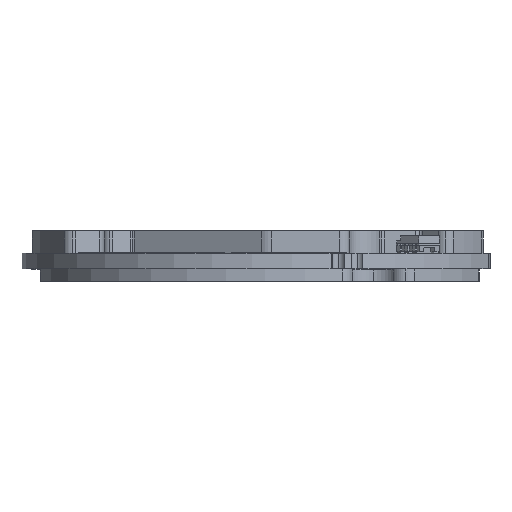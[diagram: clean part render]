
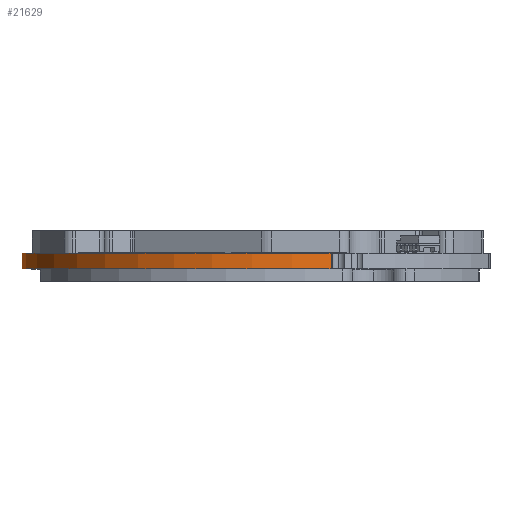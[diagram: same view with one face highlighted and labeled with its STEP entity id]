
A CAD part, left-side view. The second image highlights one B-rep face of the part: STEP entity #21629.
In plain terms, the highlighted cylindrical face has radius 25 mm (diameter 50 mm), a partial arc.
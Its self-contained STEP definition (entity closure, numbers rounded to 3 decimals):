
#232 = CIRCLE ( 'NONE', #5959, 25. ) ;
#1007 = FACE_OUTER_BOUND ( 'NONE', #36214, .T. ) ;
#1272 = CARTESIAN_POINT ( 'NONE',  ( 21.476, 47.759, -1.603 ) ) ;
#2269 = DIRECTION ( 'NONE',  ( 0.418, -0.909, 0. ) ) ;
#3970 = CARTESIAN_POINT ( 'NONE',  ( 21.476, 47.759, 0. ) ) ;
#4172 = ORIENTED_EDGE ( 'NONE', *, *, #31255, .F. ) ;
#5959 = AXIS2_PLACEMENT_3D ( 'NONE', #15067, #35200, #10817 ) ;
#7236 = AXIS2_PLACEMENT_3D ( 'NONE', #18285, #19568, #2269 ) ;
#7572 = LINE ( 'NONE', #1272, #9778 ) ;
#8390 = CARTESIAN_POINT ( 'NONE',  ( 17.999, 23.002, 0. ) ) ;
#8877 = ORIENTED_EDGE ( 'NONE', *, *, #25530, .T. ) ;
#9778 = VECTOR ( 'NONE', #31531, 1000. ) ;
#10817 = DIRECTION ( 'NONE',  ( 0.418, -0.909, 0. ) ) ;
#13466 = VERTEX_POINT ( 'NONE', #44215 ) ;
#13787 = AXIS2_PLACEMENT_3D ( 'NONE', #8390, #39305, #24996 ) ;
#14453 = VERTEX_POINT ( 'NONE', #38114 ) ;
#15067 = CARTESIAN_POINT ( 'NONE',  ( 17.999, 23.002, -1.603 ) ) ;
#18285 = CARTESIAN_POINT ( 'NONE',  ( 17.999, 23.002, -1.603 ) ) ;
#18721 = DIRECTION ( 'NONE',  ( 0., 0., 1. ) ) ;
#18776 = CIRCLE ( 'NONE', #13787, 25. ) ;
#19568 = DIRECTION ( 'NONE',  ( 0., 0., -1. ) ) ;
#21629 = ADVANCED_FACE ( 'NONE', ( #1007 ), #22922, .T. ) ;
#22922 = CYLINDRICAL_SURFACE ( 'NONE', #7236, 25. ) ;
#23483 = EDGE_CURVE ( 'NONE', #28125, #13466, #18776, .T. ) ;
#24398 = ORIENTED_EDGE ( 'NONE', *, *, #25695, .T. ) ;
#24996 = DIRECTION ( 'NONE',  ( 0.418, -0.909, 0. ) ) ;
#25530 = EDGE_CURVE ( 'NONE', #14453, #13466, #41988, .T. ) ;
#25695 = EDGE_CURVE ( 'NONE', #31361, #14453, #232, .T. ) ;
#28125 = VERTEX_POINT ( 'NONE', #3970 ) ;
#28383 = CARTESIAN_POINT ( 'NONE',  ( 21.476, 47.759, -1.603 ) ) ;
#31255 = EDGE_CURVE ( 'NONE', #31361, #28125, #7572, .T. ) ;
#31361 = VERTEX_POINT ( 'NONE', #28383 ) ;
#31531 = DIRECTION ( 'NONE',  ( 0., 0., 1. ) ) ;
#33941 = ORIENTED_EDGE ( 'NONE', *, *, #23483, .F. ) ;
#35034 = CARTESIAN_POINT ( 'NONE',  ( -6.074, 16.259, -1.603 ) ) ;
#35200 = DIRECTION ( 'NONE',  ( 0., 0., 1. ) ) ;
#36214 = EDGE_LOOP ( 'NONE', ( #24398, #8877, #33941, #4172 ) ) ;
#38114 = CARTESIAN_POINT ( 'NONE',  ( -6.074, 16.259, -1.603 ) ) ;
#39305 = DIRECTION ( 'NONE',  ( 0., 0., 1. ) ) ;
#41016 = VECTOR ( 'NONE', #18721, 1000. ) ;
#41988 = LINE ( 'NONE', #35034, #41016 ) ;
#44215 = CARTESIAN_POINT ( 'NONE',  ( -6.074, 16.259, 0. ) ) ;
